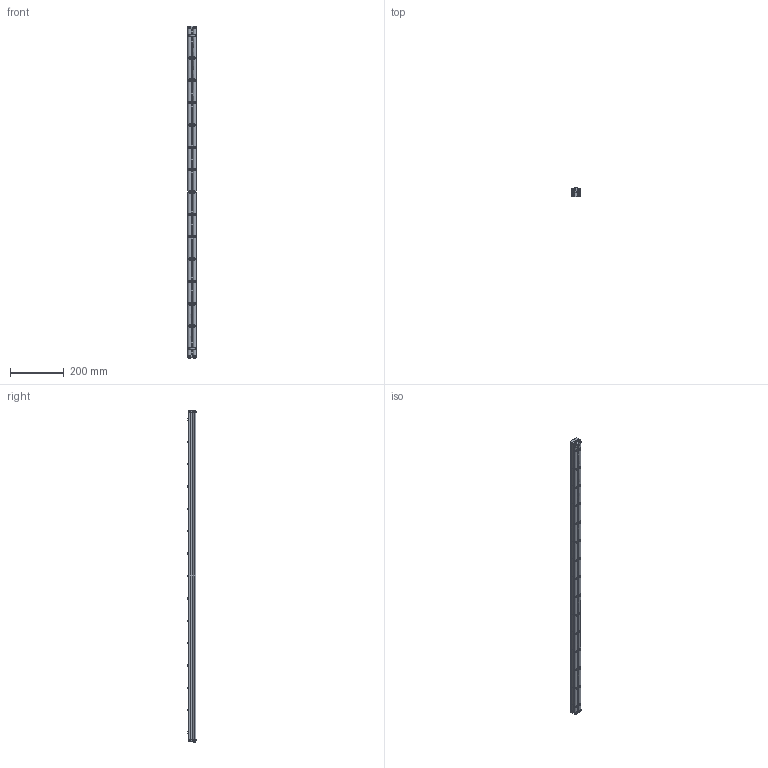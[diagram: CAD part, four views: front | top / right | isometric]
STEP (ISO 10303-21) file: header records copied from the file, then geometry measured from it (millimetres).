
FILE_DESCRIPTION((''),'2;1');
FILE_NAME('206523-48_ASM','2023-02-27T',('jenni.wallner'),(''),'PRO/ENGINEER BY PARAMETRIC TECHNOLOGY CORPORATION, 2012420','PRO/ENGINEER BY PARAMETRIC TECHNOLOGY CORPORATION, 2012420','');
FILE_SCHEMA(('CONFIG_CONTROL_DESIGN'));
Length unit declared in the file: inch
Products named in the file (7): 240826; 9506XXM_950616M; 2410WW_241048; 205977_205978_205979_205978; 2436WW_243648; ASM0001_ASM; 206523-48_ASM
Assembly tree (24 placements, depth 3):
  206523-48_ASM
    ASM0001_ASM
      240826  x15
      9506XXM_950616M  x4
      2410WW_241048
      205977_205978_205979_205978  x2
      2436WW_243648
Bounding box: 30.89 x 33.01 x 1239.75 mm (x, y, z)
Volume: 591753.8 mm3; surface area: 351645.2 mm2
Topology: 23 solids, 23 shells, 905 faces, 2578 edges, 1697 vertices
Faces by surface type: cylinder 413, plane 292, cone 140, torus 60
Entity records: 21512 total; most frequent: CARTESIAN_POINT 5372, ORIENTED_EDGE 3546, DIRECTION 3376, EDGE_CURVE 1773, AXIS2_PLACEMENT_3D 1277, VERTEX_POINT 1183, VECTOR 822, LINE 822
